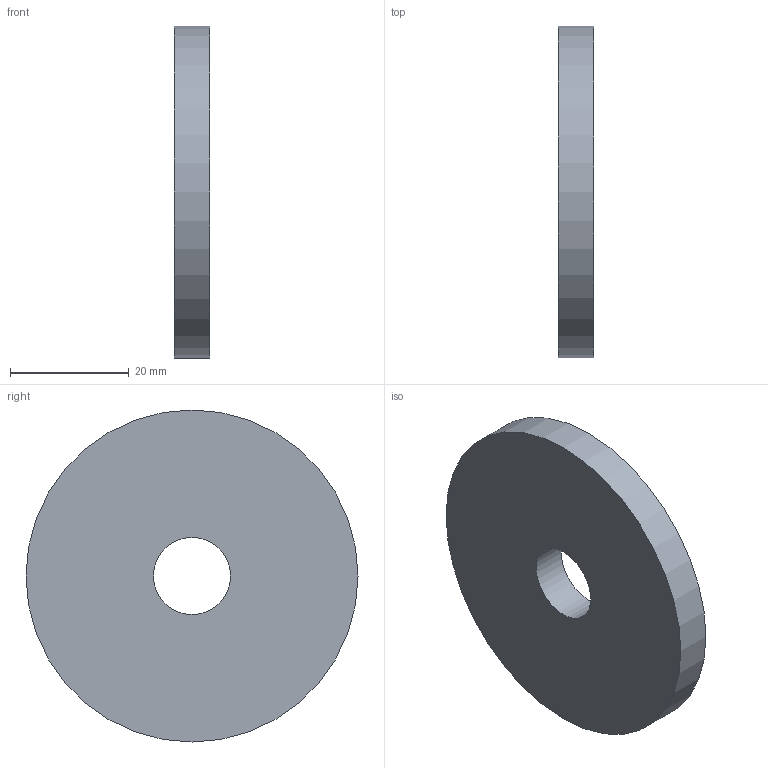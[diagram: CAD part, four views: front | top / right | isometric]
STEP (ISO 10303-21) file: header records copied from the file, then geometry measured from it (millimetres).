
FILE_DESCRIPTION(('Open CASCADE Model'),'2;1');
FILE_NAME('Open CASCADE Shape Model','2026-09-19T12:55:24',('Author'),( 'Open CASCADE'),'Open CASCADE STEP processor 7.9','Open CASCADE 7.9' ,'Unknown');
FILE_SCHEMA(('AUTOMOTIVE_DESIGN { 1 0 10303 214 1 1 1 1 }'));
Length unit declared in the file: millimetre
Products named in the file (1): Open CASCADE STEP translator 7.9 440
Bounding box: 6 x 56 x 56 mm (x, y, z)
Volume: 13981.7 mm3; surface area: 5961.2 mm2
Topology: 1 solids, 1 shells, 4 faces, 6 edges, 4 vertices
Faces by surface type: cylinder 2, plane 2
Full cylindrical faces by diameter (mm): 13 x1, 56 x1
Entity records: 186 total; most frequent: DIRECTION 32, CARTESIAN_POINT 27, ORIENTED_EDGE 12, PCURVE 12, DEFINITIONAL_REPRESENTATION 12, LINE 10, VECTOR 10, AXIS2_PLACEMENT_3D 9
